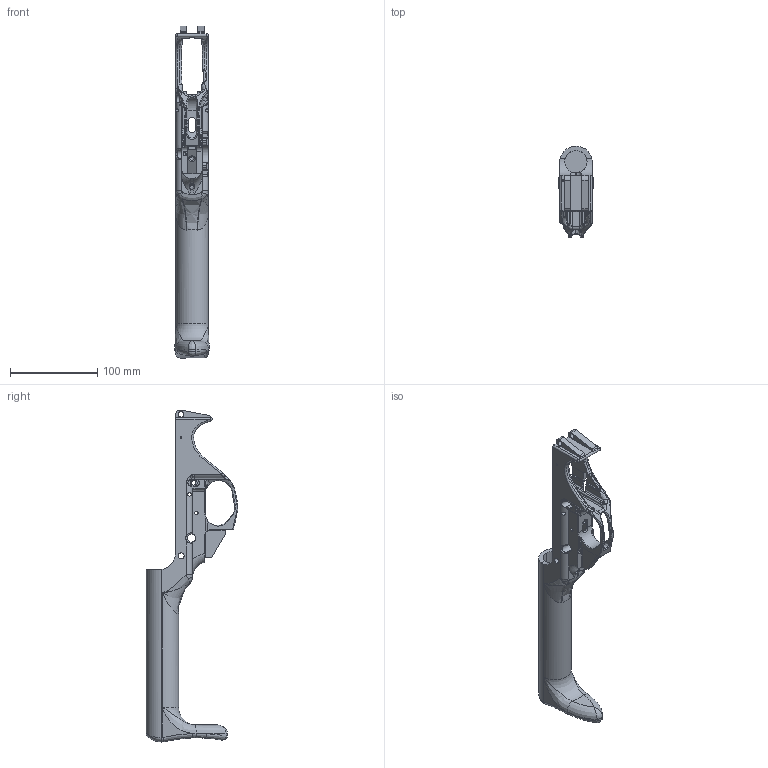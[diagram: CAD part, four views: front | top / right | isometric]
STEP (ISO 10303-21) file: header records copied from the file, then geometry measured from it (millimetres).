
FILE_DESCRIPTION (( 'STEP AP214' ), '1' );
FILE_NAME ('Hermes Vanilla Sectioning.STEP', '2013-09-29T07:18:31', ( 'elpi' ), ( '' ), 'SwSTEP 2.0', 'SolidWorks 2013', '' );
FILE_SCHEMA (( 'AUTOMOTIVE_DESIGN' ));
Length unit declared in the file: millimetre
Products named in the file (1): Hermes Vanilla Sectioning
Bounding box: 39.17 x 104.94 x 379.65 mm (x, y, z)
Volume: 284507.5 mm3; surface area: 88384.1 mm2
Topology: 1 solids, 1 shells, 520 faces, 1409 edges, 864 vertices
Faces by surface type: cylinder 204, bspline 130, plane 125, torus 43, sphere 12, cone 6
Entity records: 28140 total; most frequent: CARTESIAN_POINT 16061, ORIENTED_EDGE 2782, DIRECTION 2220, EDGE_CURVE 1391, VERTEX_POINT 862, AXIS2_PLACEMENT_3D 836, EDGE_LOOP 551, LINE 548
